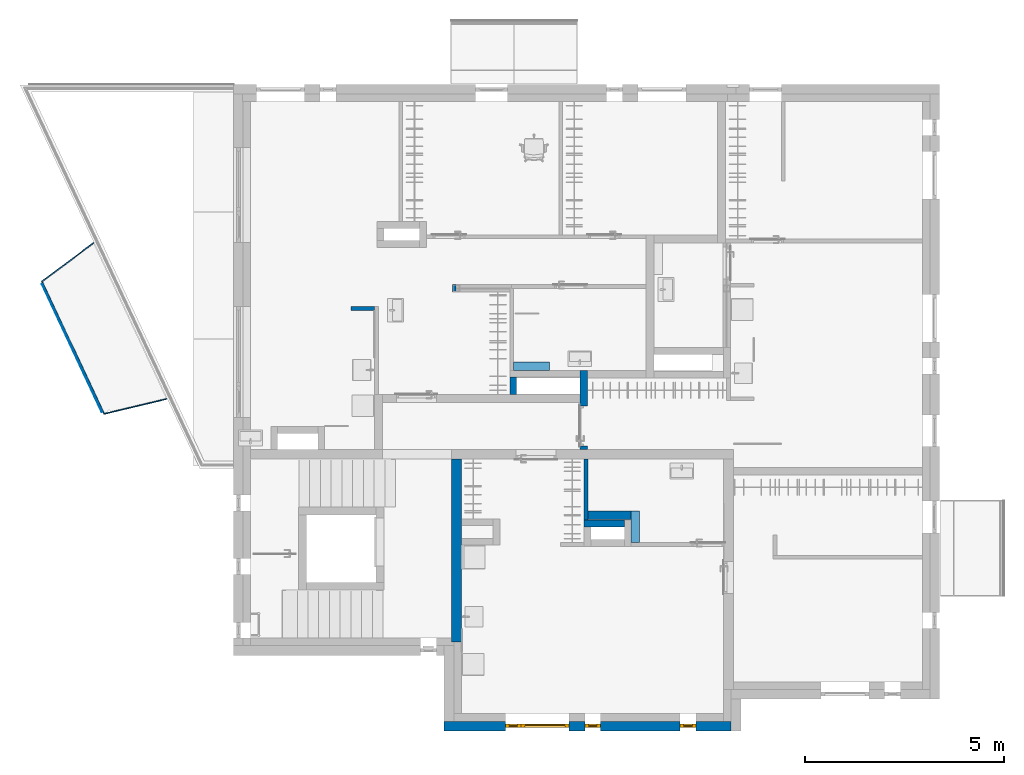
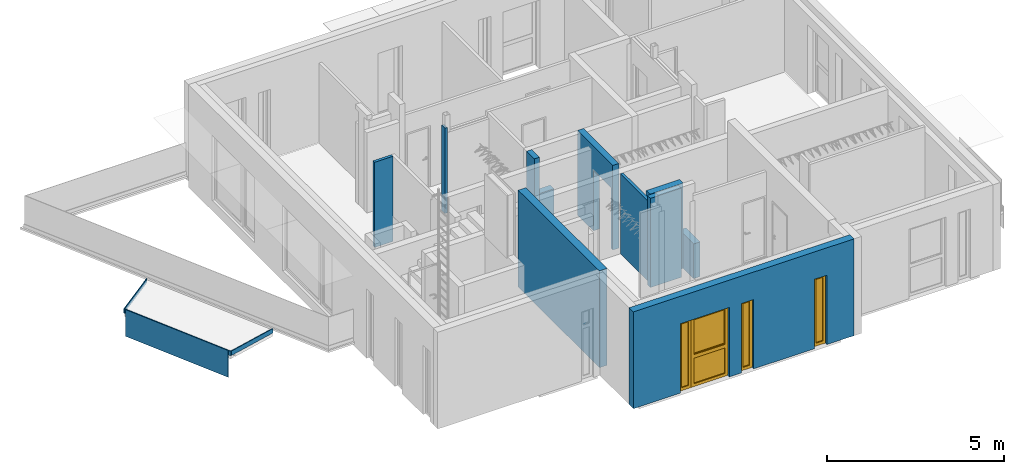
# One storey, part 3 of 42: 15 walls, 4 windows, 5 openings.
"""IFC2X3 building model written with IfcOpenShell, lengths in millimetres."""

from ifc_helpers import new_model, entity, si_unit, converted_unit, direction, frame, frame_2d, origin, place, context, subcontext, project, spatial, polyline, rectangle, outline, extrude, clip, bounded_halfspace, faceted_brep, source, transform, mapped, material, material_list, layer, layer_set, layer_usage, type_object, type_shapes, element, fill, save


model = new_model("IFC2X3")

# Units and contexts
model_context = context("Model", 3, precision=0.01, world=origin(), true_north=direction((6.123233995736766e-17, 1.0)))
plan_context = context("Plan", 3, precision=0.01, world=origin(), true_north=direction((6.123233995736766e-17, 1.0)))
body_context = subcontext(model_context, "Body", "Model", "MODEL_VIEW")
ifc_project = project(units=[si_unit("LENGTHUNIT", "METRE", prefix="MILLI"), converted_unit("PLANEANGLEUNIT", "DEGREE", entity("IfcPlaneAngleMeasure", 0.017453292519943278), si_unit("PLANEANGLEUNIT", "RADIAN"), dimensions=[0, 0, 0, 0, 0, 0, 0]), si_unit("AREAUNIT", "SQUARE_METRE")], contexts=[model_context, plan_context])

# Site, building, storey
site_placement = place(None, origin())
site = spatial("IfcSite", under=ifc_project, at=site_placement, Name="Default", CompositionType="ELEMENT")
building_placement = place(site_placement, origin())
building = spatial("IfcBuilding", under=site, at=building_placement, CompositionType="ELEMENT")
storey_placement = place(building_placement, frame((0.0, 0.0, 9465.000076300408)))
storey = spatial("IfcBuildingStorey", under=building, at=storey_placement, Name="4K", CompositionType="ELEMENT", Elevation=9465.000076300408)

# Wall, opening
ifc_material_1 = material(Name="_K. Väisviimistlus. Krohv. Valge")
ifc_layer_1 = layer(ifc_material_1, 5.0)
ifc_material_2 = material(Name="_K. Müüritis. Väikeplokk. Betoon-õõnesplokk")
ifc_layer_2 = layer(ifc_material_2, 190.00000000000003)
ifc_layer_3 = layer(ifc_material_1, 5.0)
ifc_layer_set_1 = layer_set([ifc_layer_1, ifc_layer_2, ifc_layer_3], Name="Basic Wall:SS-01. 190")
ifc_layer_usage_1 = layer_usage(ifc_layer_set_1, "AXIS2", "NEGATIVE", 100.00000000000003)
wall_type_1 = type_object("IfcWallType", Name="Basic Wall:SS-01. 190", PredefinedType="STANDARD", material=ifc_layer_set_1)
wall_1_placement = place(storey_placement, frame((8380.0, 6644.999959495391, 0.0), z_axis=(0.0, 0.0, 1.0), x_axis=(0.0, 1.0, 0.0)))
wall_1 = element("IfcWallStandardCase", 1, at=wall_1_placement, inside=storey, type_object=wall_type_1, material=ifc_layer_usage_1, Name="Basic Wall:SS-01. 190", ObjectType="Basic Wall:SS-01. 190", context=body_context, shape_type="SweptSolid", body=[
    extrude(rectangle(XDim=1995.0000405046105, YDim=200.0, at=frame_2d((997.5000202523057, -3.623767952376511e-13), x_axis=(1.0, 0.0))), origin(), (0.0, 0.0, 1.0), 2925.999923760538),
])
opening_1_placement = place(wall_1_placement, frame((-6644.999959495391, 8380.0, 0.0), z_axis=(0.0, 0.0, 1.0), x_axis=(0.0, -1.0, 0.0)))
element("IfcOpeningElement", 2, at=opening_1_placement, cuts=wall_1, Name="Basic Wall:SS-01. 190", ObjectType="Opening", context=body_context, shape_type="Brep", body=[
    faceted_brep([(9372.0, 7739.999959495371, 2100.0), (9372.0, 6739.999959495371, 2100.0), (9372.0, 6739.999959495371, 0.0), (9372.0, 7739.999959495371, 0.0), (7280.0, 7739.999959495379, 0.0), (7280.0, 7739.9999594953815, 2100.0), (7280.0, 6739.999959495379, 0.0), (7280.0, 6739.999959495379, 2100.0)], [[[0, 1, 2, 3]], [[3, 4, 5, 0]], [[2, 6, 4, 3]], [[1, 7, 6, 2]], [[5, 7, 1, 0]], [[7, 5, 4, 6]]]),
])

# Wall
ifc_layer_4 = layer(ifc_material_1, 5.0)
ifc_layer_5 = layer(ifc_material_2, 240.0)
ifc_layer_6 = layer(ifc_material_1, 5.0)
ifc_layer_set_2 = layer_set([ifc_layer_4, ifc_layer_5, ifc_layer_6], Name="Basic Wall:SS-01.240")
ifc_layer_usage_2 = layer_usage(ifc_layer_set_2, "AXIS2", "NEGATIVE", 125.00000000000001)
wall_type_2 = type_object("IfcWallType", Name="Basic Wall:SS-01.240", PredefinedType="STANDARD", material=ifc_layer_set_2)
wall_2_placement = place(storey_placement, frame((5174.995060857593, 1805.0, 0.0), z_axis=(0.0, 0.0, 1.0), x_axis=(0.0, 1.0, 0.0)))
element("IfcWallStandardCase", 3, at=wall_2_placement, inside=storey, type_object=wall_type_2, material=ifc_layer_usage_2, Name="Basic Wall:SS-01.240", ObjectType="Basic Wall:SS-01.240", context=body_context, shape_type="SweptSolid", body=[
    extrude(rectangle(XDim=4599.999959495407, YDim=249.9999999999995, at=frame_2d((2299.9999797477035, 1.4210854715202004e-13), x_axis=(-1.0, 0.0))), origin(), (0.0, 0.0, 1.0), 3345.9999999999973),
])

# Wall, openings, windows
ifc_layer_7 = layer(ifc_material_1, 10.0)
ifc_material_3 = material(Name="_K. Soojustus. EPS Silver")
ifc_layer_8 = layer(ifc_material_3, 230.0)
ifc_layer_set_3 = layer_set([ifc_layer_7, ifc_layer_8], Name="Basic Wall:VS-01")
ifc_layer_usage_3 = layer_usage(ifc_layer_set_3, "AXIS2", "NEGATIVE", 120.0)
wall_type_3 = type_object("IfcWallType", Name="Basic Wall:VS-01", PredefinedType="STANDARD", material=ifc_layer_set_3)
wall_3_placement = place(storey_placement, frame((12090.0, -310.0, 0.0), z_axis=(0.0, 0.0, 1.0), x_axis=(-1.0, 0.0, 0.0)))
wall_3 = element("IfcWallStandardCase", 4, at=wall_3_placement, inside=storey, type_object=wall_type_3, material=ifc_layer_usage_3, Name="Basic Wall:VS-01", ObjectType="Basic Wall:VS-01", context=body_context, shape_type="SweptSolid", body=[
    extrude(rectangle(XDim=7220.000000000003, YDim=239.99999999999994, at=frame_2d((3610.000000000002, 0.0), x_axis=(1.0, 0.0))), origin(), (0.0, 0.0, 1.0), 3345.9999999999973),
])
opening_2_placement = place(wall_3_placement, frame((12090.0, -310.0, 0.0), z_axis=(0.0, 0.0, 1.0), x_axis=(-1.0, 0.0, 0.0)))
opening_2 = element("IfcOpeningElement", 5, at=opening_2_placement, cuts=wall_3, Name="Basic Wall:VS-01", ObjectType="Opening", context=body_context, shape_type="Brep", body=[
    faceted_brep([(10800.0, -450.0, 2400.0), (10800.0, 244.0, 2400.0), (10800.0, 244.0, 0.0), (10800.0, -340.0, 0.0), (10800.0, -350.0, 0.0), (10800.0, -450.0, 0.0), (11200.0, -450.0, 2400.0), (11200.0, 244.0, 2400.0), (11200.0, -450.0, 0.0), (11200.0, -350.0, 0.0), (11200.0, -340.0, 0.0), (11200.0, 244.0, 0.0)], [[[0, 1, 2, 3, 4, 5]], [[6, 7, 1, 0]], [[8, 9, 10, 11, 7, 6]], [[5, 4, 3, 2, 11, 10, 9, 8]], [[6, 0, 5, 8]], [[7, 11, 2, 1]]]),
])
opening_3_placement = place(wall_3_placement, frame((12090.0, -310.0, 0.0), z_axis=(0.0, 0.0, 1.0), x_axis=(-1.0, 0.0, 0.0)))
opening_3 = element("IfcOpeningElement", 6, at=opening_3_placement, cuts=wall_3, Name="Basic Wall:VS-01", ObjectType="Opening", context=body_context, shape_type="Brep", body=[
    faceted_brep([(8405.0, -450.0, 2400.0), (8405.0, 244.0, 2400.0), (8405.0, 244.0, 0.0), (8405.0, -340.0, 0.0), (8405.0, -350.0, 0.0), (8405.0, -450.0, 0.0), (8805.0, -450.0, 2400.0), (8805.0, 244.0, 2400.0), (8805.0, -450.0, 0.0), (8805.0, -350.0, 0.0), (8805.0, -340.0, 0.0), (8805.0, 244.0, 0.0)], [[[0, 1, 2, 3, 4, 5]], [[6, 7, 1, 0]], [[8, 9, 10, 11, 7, 6]], [[5, 4, 3, 2, 11, 10, 9, 8]], [[6, 0, 5, 8]], [[7, 11, 2, 1]]]),
])
opening_4_placement = place(wall_3_placement, frame((12090.0, -310.0, 0.0), z_axis=(0.0, 0.0, 1.0), x_axis=(-1.0, 0.0, 0.0)))
opening_4 = element("IfcOpeningElement", 7, at=opening_4_placement, cuts=wall_3, Name="Basic Wall:VS-01", ObjectType="Opening", context=body_context, shape_type="Brep", body=[
    faceted_brep([(6805.0, -450.0, 2400.0), (6805.0, 244.0, 2400.0), (6805.0, 244.0, 0.0), (6805.0, -340.0, 0.0), (6805.0, -350.0, 0.0), (6805.0, -450.0, 0.0), (8005.0, -450.0, 2400.0), (8005.0, 244.0, 2400.0), (8005.0, -450.0, 0.0), (8005.0, -350.0, 0.0), (8005.0, -340.0, 0.0), (8005.0, 244.0, 0.0)], [[[0, 1, 2, 3, 4, 5]], [[6, 7, 1, 0]], [[8, 9, 10, 11, 7, 6]], [[5, 4, 3, 2, 11, 10, 9, 8]], [[6, 0, 5, 8]], [[7, 11, 2, 1]]]),
])
opening_5_placement = place(wall_3_placement, frame((12090.0, -310.0, 0.0), z_axis=(0.0, 0.0, 1.0), x_axis=(-1.0, 0.0, 0.0)))
opening_5 = element("IfcOpeningElement", 8, at=opening_5_placement, cuts=wall_3, Name="Basic Wall:VS-01", ObjectType="Opening", context=body_context, shape_type="Brep", body=[
    faceted_brep([(6405.0, -450.0, 2400.0), (6405.0, 244.0, 2400.0), (6405.0, 244.0, 0.0), (6405.0, -340.0, 0.0), (6405.0, -350.0, 0.0), (6405.0, -450.0, 0.0), (6805.0, -450.0, 2400.0), (6805.0, 244.0, 2400.0), (6805.0, -450.0, 0.0), (6805.0, -350.0, 0.0), (6805.0, -340.0, 0.0), (6805.0, 244.0, 0.0)], [[[0, 1, 2, 3, 4, 5]], [[6, 7, 1, 0]], [[8, 9, 10, 11, 7, 6]], [[5, 4, 3, 2, 11, 10, 9, 8]], [[6, 0, 5, 8]], [[7, 11, 2, 1]]]),
])
ifc_material_4 = material(Name="_K. Klaas. Pakett")
ifc_material_5 = material(Name="_K. Avatäited. Raam. PVC. RAL9005")
ifc_material_6 = material(Name="_K. Avatäited. Raam. PVC. Valge")
ifc_material_list_1 = material_list([ifc_material_4, ifc_material_5, ifc_material_6])
window_style_1 = type_object("IfcWindowStyle", Name="HR_Window_Generic_Rectangle_1x2:A-13.1200x2400.P", ConstructionType="NOTDEFINED", OperationType="NOTDEFINED", ParameterTakesPrecedence=False, Sizeable=False, material=ifc_material_list_1)
shared_shape_1 = source(origin(), body_context, "Body", "Brep", [
    faceted_brep([(78.0, -154.0, 2322.0), (1122.0, -154.0, 2322.0), (1122.0, -154.0, 1101.0), (78.0, -154.0, 1101.0), (1122.0, -179.0, 2322.0), (1122.0, -179.0, 1101.0), (78.0, -179.0, 1101.0), (78.0, -179.0, 2322.0)], [[[0, 1, 2, 3]], [[2, 1, 4, 5]], [[3, 2, 5, 6]], [[0, 3, 6, 7]], [[7, 6, 5, 4]], [[1, 0, 7, 4]]]),
    faceted_brep([(1122.0, -154.0, 2322.0), (1122.0, -154.0, 1101.0), (1122.0, -179.0, 1101.0), (1122.0, -179.0, 2322.0), (1142.0, -134.0, 2342.0), (58.0, -134.0, 2342.0), (58.0, -194.0, 2342.0), (1142.0, -194.0, 2342.0), (98.0, -154.0, 2302.0), (98.0, -134.0, 2302.0), (1102.0, -134.0, 2302.0), (1102.0, -154.0, 2302.0), (98.0, -179.0, 2302.0), (98.0, -194.0, 2302.0), (98.0, -194.0, 1121.0), (98.0, -179.0, 1121.0), (1142.0, -134.0, 1081.0), (1142.0, -194.0, 1081.0), (58.0, -194.0, 1081.0), (58.0, -134.0, 1081.0), (1102.0, -194.0, 2302.0), (1102.0, -194.0, 1121.0), (98.0, -134.0, 1121.0), (1102.0, -134.0, 1121.0), (98.0, -154.0, 1121.0), (1102.0, -154.0, 1121.0), (78.0, -154.0, 1101.0), (78.0, -179.0, 1101.0), (78.0, -154.0, 2322.0), (78.0, -179.0, 2322.0), (1102.0, -179.0, 2302.0), (1102.0, -179.0, 1121.0)], [[[0, 1, 2, 3]], [[4, 5, 6, 7]], [[8, 9, 10, 11]], [[12, 13, 14, 15]], [[16, 17, 18, 19]], [[4, 7, 17, 16]], [[13, 20, 21, 14], [7, 6, 18, 17]], [[6, 5, 19, 18]], [[5, 4, 16, 19], [10, 9, 22, 23]], [[9, 8, 24, 22]], [[25, 23, 22, 24]], [[11, 10, 23, 25]], [[1, 26, 27, 2]], [[26, 28, 29, 27]], [[28, 26, 1, 0], [8, 11, 25, 24]], [[28, 0, 3, 29]], [[20, 30, 31, 21]], [[21, 31, 15, 14]], [[29, 3, 2, 27], [30, 12, 15, 31]], [[13, 12, 30, 20]]], outer=[[True], [True], [True], [True], [True], [True], [False, True], [True], [True, False], [True], [True], [True], [True], [True], [True, False], [True], [True], [True], [True, False], [True]]),
    faceted_brep([(88.0, -194.0, 989.0), (1112.0, -194.0, 989.0), (1112.0, -194.0, 108.0), (88.0, -194.0, 108.0), (1142.0, -194.0, 1019.0), (58.0, -194.0, 1019.0), (58.0, -194.0, 78.0), (1142.0, -194.0, 78.0), (88.0, -159.0, 989.0), (88.0, -159.0, 108.0), (1112.0, -159.0, 108.0), (1142.0, -159.0, 1019.0), (1142.0, -159.0, 78.0), (58.0, -159.0, 78.0), (58.0, -159.0, 1019.0), (1112.0, -159.0, 989.0)], [[[0, 1, 2, 3], [4, 5, 6, 7]], [[8, 0, 3, 9]], [[9, 3, 2, 10]], [[11, 12, 13, 14], [15, 8, 9, 10]], [[1, 15, 10, 2]], [[6, 5, 14, 13]], [[7, 6, 13, 12]], [[4, 7, 12, 11]], [[15, 1, 0, 8]], [[5, 4, 11, 14]]], outer=[[False, True], [True], [True], [True, False], [True], [True], [True], [True], [True], [True]]),
    faceted_brep([(1142.0, -159.0, 1019.0), (58.0, -159.0, 1019.0), (58.0, -159.0, 78.0), (1142.0, -159.0, 78.0), (58.0, -134.0, 1019.0), (58.0, -134.0, 78.0), (1142.0, -134.0, 78.0), (1142.0, -134.0, 1019.0)], [[[0, 1, 2, 3]], [[2, 1, 4, 5]], [[3, 2, 5, 6]], [[0, 3, 6, 7]], [[7, 6, 5, 4]], [[1, 0, 7, 4]]]),
    faceted_brep([(58.0, -134.0, 2342.0), (58.0, -134.0, 1081.0), (1142.0, -134.0, 1081.0), (1142.0, -134.0, 2342.0), (88.0, -134.0, 2312.0), (1112.0, -134.0, 2312.0), (1112.0, -134.0, 1111.0), (88.0, -134.0, 1111.0), (1142.0, -134.0, 1019.0), (1142.0, -134.0, 78.0), (1142.0, -194.0, 78.0), (1142.0, -194.0, 1019.0), (58.0, -134.0, 78.0), (58.0, -134.0, 1019.0), (58.0, -194.0, 1019.0), (58.0, -194.0, 78.0), (1112.0, -100.0, 108.0), (88.0, -100.0, 108.0), (88.0, -134.0, 108.0), (1112.0, -134.0, 108.0), (88.0, -100.0, 989.0), (88.0, -134.0, 989.0), (1112.0, -100.0, 989.0), (1112.0, -134.0, 989.0), (1200.0, -194.0, 2400.0), (0.0, -194.0, 2400.0), (0.0, -194.0, 30.0), (1200.0, -194.0, 30.0), (58.0, -194.0, 2342.0), (1142.0, -194.0, 2342.0), (1142.0, -194.0, 1081.0), (58.0, -194.0, 1081.0), (0.0, -100.0, 2400.0), (0.0, -100.0, 30.0), (0.0, -110.0, 30.0), (0.0, -110.0, 0.0), (0.0, -184.0, 0.0), (0.0, -184.0, 30.0), (1200.0, -184.0, 30.0), (1200.0, -100.0, 2400.0), (1200.0, -184.0, 0.0), (1200.0, -110.0, 0.0), (1200.0, -110.0, 30.0), (1200.0, -100.0, 30.0), (88.0, -100.0, 2312.0), (88.0, -100.0, 1111.0), (1112.0, -100.0, 1111.0), (1112.0, -100.0, 2312.0)], [[[0, 1, 2, 3], [4, 5, 6, 7]], [[8, 9, 10, 11]], [[12, 13, 14, 15]], [[9, 12, 15, 10]], [[16, 17, 18, 19]], [[17, 20, 21, 18]], [[22, 16, 19, 23]], [[11, 10, 15, 14], [24, 25, 26, 27], [28, 29, 30, 31]], [[25, 32, 33, 34, 35, 36, 37, 26]], [[37, 38, 27, 26]], [[39, 24, 27, 38, 40, 41, 42, 43]], [[17, 16, 22, 20], [32, 39, 43, 33], [44, 45, 46, 47]], [[42, 34, 33, 43]], [[34, 42, 41, 35]], [[35, 41, 40, 36]], [[38, 37, 36, 40]], [[25, 24, 39, 32]], [[44, 47, 5, 4]], [[47, 46, 6, 5]], [[45, 44, 4, 7]], [[0, 3, 29, 28]], [[3, 2, 30, 29]], [[13, 8, 11, 14]], [[1, 0, 28, 31]], [[2, 1, 31, 30]], [[46, 45, 7, 6]], [[20, 22, 23, 21]], [[9, 8, 13, 12], [19, 18, 21, 23]]], outer=[[True, False], [True], [True], [True], [True], [True], [True], [False, True, False], [True], [True], [True], [False, True, False], [True], [True], [True], [True], [True], [True], [True], [True], [True], [True], [True], [True], [True], [True], [True], [True, False]]),
])
type_shapes(window_style_1, [shared_shape_1])
window_1_placement = place(opening_4_placement, frame((8005.0, -450.0, 0.0), z_axis=(0.0, 0.0, 1.0), x_axis=(-1.0, 0.0, 0.0)))
window_1 = element("IfcWindow", 9, at=window_1_placement, inside=storey, type_object=window_style_1, material=ifc_material_list_1, Name="HR_Window_Generic_Rectangle_1x2:A-13.1200x2400.P", ObjectType="HR_Window_Generic_Rectangle_1x2:A-13.1200x2400.P", OverallHeight=2465.0000000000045, OverallWidth=1200.0000000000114, context=body_context, shape_type="MappedRepresentation", body=[
    mapped(shared_shape_1, transform((0.0, 0.0, 0.0), scale=1.0)),
])
fill(opening_4, window_1)
ifc_material_list_2 = material_list([ifc_material_6, ifc_material_4, ifc_material_5])
window_style_2 = type_object("IfcWindowStyle", Name="HR_Window_Generic_Rectangle_1x1:A-01.400x2400.ma", ConstructionType="NOTDEFINED", OperationType="NOTDEFINED", ParameterTakesPrecedence=False, Sizeable=False, material=ifc_material_list_2)
shared_shape_2 = source(origin(), body_context, "Body", "Brep", [
    faceted_brep([(88.0, -194.0, 2312.0), (312.0, -194.0, 2312.0), (312.0, -194.0, 108.0), (88.0, -194.0, 108.0), (342.0, -194.0, 2342.0), (58.0, -194.0, 2342.0), (58.0, -194.0, 78.0), (342.0, -194.0, 78.0), (88.0, -159.0, 2312.0), (88.0, -159.0, 108.0), (312.0, -159.0, 108.0), (342.0, -159.0, 2342.0), (342.0, -159.0, 78.0), (58.0, -159.0, 78.0), (58.0, -159.0, 2342.0), (312.0, -159.0, 2312.0)], [[[0, 1, 2, 3], [4, 5, 6, 7]], [[8, 0, 3, 9]], [[9, 3, 2, 10]], [[11, 12, 13, 14], [15, 8, 9, 10]], [[1, 15, 10, 2]], [[6, 5, 14, 13]], [[7, 6, 13, 12]], [[4, 7, 12, 11]], [[15, 1, 0, 8]], [[5, 4, 11, 14]]], outer=[[False, True], [True], [True], [True, False], [True], [True], [True], [True], [True], [True]]),
    faceted_brep([(342.0, -159.0, 2342.0), (58.0, -159.0, 2342.0), (58.0, -159.0, 78.0), (342.0, -159.0, 78.0), (58.0, -134.0, 2342.0), (58.0, -134.0, 78.0), (342.0, -134.0, 78.0), (342.0, -134.0, 2342.0)], [[[0, 1, 2, 3]], [[2, 1, 4, 5]], [[3, 2, 5, 6]], [[0, 3, 6, 7]], [[7, 6, 5, 4]], [[1, 0, 7, 4]]]),
    faceted_brep([(342.0, -134.0, 78.0), (58.0, -134.0, 78.0), (58.0, -194.0, 78.0), (342.0, -194.0, 78.0), (58.0, -134.0, 2342.0), (58.0, -194.0, 2342.0), (342.0, -134.0, 2342.0), (342.0, -194.0, 2342.0), (88.0, -100.0, 108.0), (88.0, -100.0, 2312.0), (88.0, -134.0, 2312.0), (88.0, -134.0, 108.0), (312.0, -100.0, 108.0), (312.0, -134.0, 108.0), (312.0, -100.0, 2312.0), (312.0, -134.0, 2312.0), (0.0, -100.0, 2400.0), (400.0, -100.0, 2400.0), (400.0, -100.0, 30.0), (0.0, -100.0, 30.0), (400.0, -194.0, 2400.0), (0.0, -194.0, 2400.0), (0.0, -194.0, 30.0), (400.0, -194.0, 30.0), (0.0, -110.0, 30.0), (0.0, -110.0, 0.0), (0.0, -184.0, 0.0), (0.0, -184.0, 30.0), (400.0, -184.0, 30.0), (400.0, -184.0, 0.0), (400.0, -110.0, 0.0), (400.0, -110.0, 30.0)], [[[0, 1, 2, 3]], [[1, 4, 5, 2]], [[6, 0, 3, 7]], [[8, 9, 10, 11]], [[12, 8, 11, 13]], [[14, 12, 13, 15]], [[16, 17, 18, 19], [9, 8, 12, 14]], [[20, 21, 22, 23], [7, 3, 2, 5]], [[21, 16, 19, 24, 25, 26, 27, 22]], [[27, 28, 23, 22]], [[17, 20, 23, 28, 29, 30, 31, 18]], [[31, 24, 19, 18]], [[24, 31, 30, 25]], [[25, 30, 29, 26]], [[28, 27, 26, 29]], [[4, 6, 7, 5]], [[9, 14, 15, 10]], [[21, 20, 17, 16]], [[10, 15, 13, 11], [0, 6, 4, 1]]], outer=[[True], [True], [True], [True], [True], [True], [True, False], [True, False], [True], [True], [True], [True], [True], [True], [True], [True], [True], [True], [False, True]]),
])
type_shapes(window_style_2, [shared_shape_2])
window_2_placement = place(opening_2_placement, frame((11200.0, -450.0, 0.0), z_axis=(0.0, 0.0, 1.0), x_axis=(-1.0, 0.0, 0.0)))
window_2 = element("IfcWindow", 10, at=window_2_placement, inside=storey, type_object=window_style_2, material=ifc_material_list_2, Name="HR_Window_Generic_Rectangle_1x1:A-01.400x2400.ma", ObjectType="HR_Window_Generic_Rectangle_1x1:A-01.400x2400.ma", OverallHeight=2465.0000000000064, OverallWidth=400.0000000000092, context=body_context, shape_type="MappedRepresentation", body=[
    mapped(shared_shape_2, transform((0.0, 0.0, 0.0), scale=1.0)),
])
fill(opening_2, window_2)
window_3_placement = place(opening_3_placement, frame((8805.0, -450.0, 0.0), z_axis=(0.0, 0.0, 1.0), x_axis=(-1.0, 0.0, 0.0)))
window_3 = element("IfcWindow", 11, at=window_3_placement, inside=storey, type_object=window_style_2, material=ifc_material_list_2, Name="HR_Window_Generic_Rectangle_1x1:A-01.400x2400.ma", ObjectType="HR_Window_Generic_Rectangle_1x1:A-01.400x2400.ma", OverallHeight=2465.0000000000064, OverallWidth=400.0000000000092, context=body_context, shape_type="MappedRepresentation", body=[
    mapped(shared_shape_2, transform((0.0, 0.0, 0.0), scale=1.0)),
])
fill(opening_3, window_3)
window_4_placement = place(opening_5_placement, frame((6805.0, -450.0, 0.0), z_axis=(0.0, 0.0, 1.0), x_axis=(-1.0, 0.0, 0.0)))
window_4 = element("IfcWindow", 12, at=window_4_placement, inside=storey, type_object=window_style_2, material=ifc_material_list_2, Name="HR_Window_Generic_Rectangle_1x1:A-01.400x2400.ma", ObjectType="HR_Window_Generic_Rectangle_1x1:A-01.400x2400.ma", OverallHeight=2465.0000000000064, OverallWidth=400.0000000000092, context=body_context, shape_type="MappedRepresentation", body=[
    mapped(shared_shape_2, transform((0.0, 0.0, 0.0), scale=1.0)),
])
fill(opening_5, window_4)

# Walls
ifc_material_7 = material(Name="_K. Ehitusplaat. Kipsplaat. Erikõva")
ifc_layer_9 = layer(ifc_material_7, 13.000000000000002)
ifc_material_8 = material(Name="_K. Soojustus. Mineraalvill")
ifc_layer_10 = layer(ifc_material_8, 66.0)
ifc_layer_11 = layer(ifc_material_7, 13.000000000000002)
ifc_layer_set_4 = layer_set([ifc_layer_9, ifc_layer_10, ifc_layer_11], Name="Basic Wall:SS-401")
ifc_layer_usage_4 = layer_usage(ifc_layer_set_4, "AXIS2", "NEGATIVE", 46.00000000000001)
wall_type_4 = type_object("IfcWallType", Name="Basic Wall:SS-401", PredefinedType="STANDARD", material=ifc_layer_set_4)
wall_4_placement = place(storey_placement, frame((2520.0, 10194.499959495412, -20.0)))
element("IfcWallStandardCase", 13, at=wall_4_placement, inside=storey, type_object=wall_type_4, material=ifc_layer_usage_4, Name="Basic Wall:SS-401", ObjectType="Basic Wall:SS-401", context=body_context, shape_type="SweptSolid", body=[
    extrude(rectangle(XDim=600.0, YDim=92.00000000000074, at=frame_2d((300.0, 1.2434497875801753e-13), x_axis=(-1.0, 0.0))), origin(), (0.0, 0.0, 1.0), 2945.9999999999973),
])
ifc_layer_usage_5 = layer_usage(ifc_layer_set_4, "AXIS2", "NEGATIVE", 46.00000000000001)
wall_5_placement = place(storey_placement, frame((8436.0, 4870.0, -20.0), z_axis=(0.0, 0.0, 1.0), x_axis=(0.0, 1.0, 0.0)))
element("IfcWallStandardCase", 14, at=wall_5_placement, inside=storey, type_object=wall_type_4, material=ifc_layer_usage_5, Name="Basic Wall:SS-401", ObjectType="Basic Wall:SS-401", context=body_context, shape_type="SweptSolid", body=[
    extrude(rectangle(XDim=1534.9999594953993, YDim=92.00000000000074, at=frame_2d((767.4999797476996, 1.9895196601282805e-13), x_axis=(-1.0, 0.0))), origin(), (0.0, 0.0, 1.0), 2769.999923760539),
])
ifc_layer_12 = layer(ifc_material_7, 13.000000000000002)
ifc_layer_13 = layer(ifc_material_8, 66.0)
ifc_layer_set_5 = layer_set([ifc_layer_12, ifc_layer_13], Name="Basic Wall:SS-402")
ifc_layer_usage_6 = layer_usage(ifc_layer_set_5, "AXIS2", "NEGATIVE", 39.50000000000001)
wall_type_5 = type_object("IfcWallType", Name="Basic Wall:SS-402", PredefinedType="STANDARD", material=ifc_layer_set_5)
wall_6_placement = place(storey_placement, frame((5121.499999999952, 10607.0, -20.0), z_axis=(0.0, 0.0, 1.0), x_axis=(0.0, 1.0, 0.0)))
element("IfcWallStandardCase", 15, at=wall_6_placement, inside=storey, type_object=wall_type_5, material=ifc_layer_usage_6, Name="Basic Wall:SS-402", ObjectType="Basic Wall:SS-402", context=body_context, shape_type="SweptSolid", body=[
    extrude(rectangle(XDim=186.00000000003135, YDim=78.99999999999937, at=frame_2d((93.00000000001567, 1.4921397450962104e-13), x_axis=(-1.0, 0.0))), origin(), (0.0, 0.0, 1.0), 2945.9999999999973),
])
ifc_layer_14 = layer(ifc_material_1, 10.0)
ifc_material_9 = material(Name="_K. Müüritis. Väikeplokk. Kergkruusplokk")
ifc_layer_15 = layer(ifc_material_9, 150.0)
ifc_layer_16 = layer(ifc_material_1, 10.0)
ifc_layer_set_6 = layer_set([ifc_layer_14, ifc_layer_15, ifc_layer_16], Name="Basic Wall:SS-03. Šahti sein")
ifc_layer_usage_7 = layer_usage(ifc_layer_set_6, "AXIS2", "POSITIVE", -85.00000000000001)
wall_type_6 = type_object("IfcWallType", Name="Basic Wall:SS-03. Šahti sein", PredefinedType="STANDARD", material=ifc_layer_set_6)
wall_7_placement = place(storey_placement, frame((6605.0, 8470.0, 0.0), z_axis=(0.0, 0.0, 1.0), x_axis=(0.0, -1.0, 0.0)))
element("IfcWallStandardCase", 16, at=wall_7_placement, inside=storey, type_object=wall_type_6, material=ifc_layer_usage_7, Name="Basic Wall:SS-03. Šahti sein", ObjectType="Basic Wall:SS-03. Šahti sein", context=body_context, shape_type="SweptSolid", body=[
    extrude(rectangle(XDim=435.0000405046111, YDim=170.00000000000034, at=frame_2d((217.50002025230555, 3.907985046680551e-13), x_axis=(-1.0, 0.0))), origin(), (0.0, 0.0, 1.0), 2925.999923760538),
])
ifc_layer_usage_8 = layer_usage(ifc_layer_set_6, "AXIS2", "NEGATIVE", 85.00000000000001)
wall_8_placement = place(storey_placement, frame((8390.0, 4785.0, -155.0)))
element("IfcWallStandardCase", 17, at=wall_8_placement, inside=storey, type_object=wall_type_6, material=ifc_layer_usage_8, Name="Basic Wall:SS-03. Šahti sein", ObjectType="Basic Wall:SS-03. Šahti sein", context=body_context, shape_type="SweptSolid", body=[
    extrude(rectangle(XDim=1009.9999999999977, YDim=170.00000000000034, at=frame_2d((504.99999999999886, 0.0), x_axis=(-1.0, 0.0))), origin(), (0.0, 0.0, 1.0), 3080.9999237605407),
])
ifc_material_10 = material(Name="_K. Välisviimistlus. Alumiinium-komposiitplaat")
ifc_layer_17 = layer(ifc_material_10, 4.0)
ifc_material_11 = material(Name="_K. Õhk. Roov. Fassaadikatte alusroov. Horisontaalne. 25 mm")
ifc_layer_18 = layer(ifc_material_11, 16.0)
ifc_layer_set_7 = layer_set([ifc_layer_17, ifc_layer_18], Name="Basic Wall:VS-komposiit")
ifc_layer_usage_9 = layer_usage(ifc_layer_set_7, "AXIS2", "NEGATIVE", 10.000000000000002)
wall_type_7 = type_object("IfcWallType", Name="Basic Wall:VS-komposiit", PredefinedType="STANDARD")
wall_9_placement = place(storey_placement, frame((-3737.7133640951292, 7592.904474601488, -762.5000763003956), z_axis=(0.0, 0.0, 1.0), x_axis=(-0.42443169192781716, 0.9054599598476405, 0.0)))
element("IfcWallStandardCase", 18, at=wall_9_placement, inside=storey, type_object=wall_type_7, material=ifc_layer_usage_9, Name="Basic Wall:VS-komposiit", ObjectType="Basic Wall:VS-komposiit", context=body_context, shape_type="SweptSolid", body=[
    extrude(rectangle(XDim=3545.900100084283, YDim=20.000000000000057, at=frame_2d((1772.9500500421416, -5.3290705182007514e-14), x_axis=(-1.0, 0.0))), origin(), (0.0, 0.0, 1.0), 925.0000763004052),
])
ifc_material_12 = material(Name="_K. Katusekate. Rullmaterjal. SBS")
ifc_layer_19 = layer(ifc_material_12, 10.0)
ifc_material_13 = material(Name="_K. Ehitusplaat. Vineer. Veekindel")
ifc_layer_20 = layer(ifc_material_13, 15.0)
ifc_layer_set_8 = layer_set([ifc_layer_19, ifc_layer_20], Name="Basic Wall:VS-Rõdu parapet")
ifc_layer_usage_10 = layer_usage(ifc_layer_set_8, "AXIS2", "NEGATIVE", 12.5)
wall_type_8 = type_object("IfcWallType", Name="Basic Wall:VS-Rõdu parapet", PredefinedType="STANDARD", material=ifc_layer_set_8)
wall_10_placement = place(storey_placement, frame((-3948.4373061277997, 11846.417884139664, 0.0), z_axis=(0.0, 0.0, 1.0), x_axis=(-0.801069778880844, -0.5985709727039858, 0.0)))
element("IfcWallStandardCase", 19, at=wall_10_placement, inside=storey, type_object=wall_type_8, material=ifc_layer_usage_10, Name="Basic Wall:VS-Rõdu parapet", ObjectType="Basic Wall:VS-Rõdu parapet", context=body_context, shape_type="Clipping", body=[
    clip(clip(clip(clip(extrude(outline(polyline([(0.0, -12.499999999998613), (1635.7127134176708, -12.499999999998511), (1640.868419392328, 12.500000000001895), (1615.3423287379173, 12.500000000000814), (5.155769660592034, 12.500000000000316), (0.0, -12.499999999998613)])), origin(), (0.0, 0.0, 1.0), 154.9999999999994), bounded_halfspace(frame((9.195834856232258, 12.500000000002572, 104.91652420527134), z_axis=(0.0, 0.008347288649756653, 0.9999651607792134), x_axis=(1.0, 0.0, 0.0)), True, frame((9.195834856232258, 12.500000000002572, 104.91652420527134)), polyline([(0.0, 0.0), (-6.102373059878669, -10.0), (1614.294582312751, -10.0), (1615.8881693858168, 0.0), (0.0, 0.0)]))), bounded_halfspace(frame((1625.2534591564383, 12.500000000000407, 104.91624164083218), z_axis=(-0.2690859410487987, 0.05549448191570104, 0.9615160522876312), x_axis=(0.2019826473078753, 0.9793891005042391, 0.0)), True, frame((1625.2534591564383, 12.500000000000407, 104.91624164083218)), polyline([(0.0, 0.0), (-1.7630419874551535, -10.0), (0.29929102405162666, 0.0), (0.0, 0.0)]))), bounded_halfspace(frame((1625.0840042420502, 12.500000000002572, 104.91652420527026), z_axis=(0.0016674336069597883, 0.008081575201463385, 0.9999659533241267), x_axis=(0.17362051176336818, 0.9847780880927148, -0.008248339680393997)), True, frame((1625.0840042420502, 12.500000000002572, 104.91652420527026)), polyline([(0.0, 0.0), (-1.5935870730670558, -10.0), (0.16945491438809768, 0.0), (0.0, 0.0)]))), bounded_halfspace(frame((3.0934617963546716, 2.5000000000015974, 105.0), z_axis=(0.020657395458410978, -0.004260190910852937, 0.9997775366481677), x_axis=(0.5208936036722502, 0.8535918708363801, -0.007125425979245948)), True, frame((3.0934617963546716, 2.5000000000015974, 105.0)), polyline([(0.0, 0.0), (6.1023730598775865, 10.0), (2.062307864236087, 10.0), (0.0, 0.0)]))),
])
ifc_layer_usage_11 = layer_usage(ifc_layer_set_8, "AXIS2", "NEGATIVE", 12.5)
wall_11_placement = place(storey_placement, frame((-5246.275314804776, 10864.202031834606, 0.0), z_axis=(0.0, 0.0, 1.0), x_axis=(0.42443608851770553, -0.9054578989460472, 0.0)))
element("IfcWallStandardCase", 20, at=wall_11_placement, inside=storey, type_object=wall_type_8, material=ifc_layer_usage_11, Name="Basic Wall:VS-Rõdu parapet", ObjectType="Basic Wall:VS-Rõdu parapet", context=body_context, shape_type="SweptSolid", body=[
    extrude(outline(polyline([(3679.100119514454, -12.500000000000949), (3684.255952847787, 12.499999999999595), (3658.7298364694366, 12.499999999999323), (0.0, 12.500000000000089), (2.062279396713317, 2.500014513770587), (5.15570597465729, -12.500000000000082), (3679.100119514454, -12.500000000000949)])), origin(), (0.0, 0.0, 1.0), 154.9999999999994),
])
ifc_layer_usage_12 = layer_usage(ifc_layer_set_8, "AXIS2", "NEGATIVE", 12.5)
wall_12_placement = place(storey_placement, frame((-3679.1500945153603, 7544.5250982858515, 0.0), z_axis=(0.0, 0.0, 1.0), x_axis=(0.9725243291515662, 0.23280126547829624, 0.0)))
element("IfcWallStandardCase", 21, at=wall_12_placement, inside=storey, type_object=wall_type_8, material=ifc_layer_usage_12, Name="Basic Wall:VS-Rõdu parapet", ObjectType="Basic Wall:VS-Rõdu parapet", context=body_context, shape_type="SweptSolid", body=[
    extrude(outline(polyline([(1615.3332002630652, -12.50000000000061), (1610.17743061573, 12.499999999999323), (0.0, 12.500000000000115), (5.155833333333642, -12.500000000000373), (1615.3332002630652, -12.50000000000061)])), origin(), (0.0, 0.0, 1.0), 154.9999999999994),
])
ifc_layer_21 = layer(ifc_material_7, 13.000000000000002)
ifc_material_14 = material(Name="_K. Õhk. Roov. Fassaadikatte alusroov. Vertikaalne. 25 mm")
ifc_layer_22 = layer(ifc_material_14, 200.0)
ifc_layer_set_9 = layer_set([ifc_layer_21, ifc_layer_22], Name="Basic Wall:SS-403")
ifc_layer_usage_13 = layer_usage(ifc_layer_set_9, "AXIS2", "POSITIVE", -106.5)
wall_type_9 = type_object("IfcWallType", Name="Basic Wall:SS-403", PredefinedType="STANDARD", material=ifc_layer_set_9)
wall_13_placement = place(storey_placement, frame((7512.0, 8746.500000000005, -20.0), z_axis=(0.0, 0.0, 1.0), x_axis=(-1.0, 0.0, 0.0)))
element("IfcWallStandardCase", 22, at=wall_13_placement, inside=storey, type_object=wall_type_9, material=ifc_layer_usage_13, Name="Basic Wall:SS-403", ObjectType="Basic Wall:SS-403", context=body_context, shape_type="SweptSolid", body=[
    extrude(rectangle(XDim=900.0, YDim=212.9999999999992, at=frame_2d((450.0, -1.6342482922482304e-13), x_axis=(-1.0, 0.0))), origin(), (0.0, 0.0, 1.0), 1200.0),
])
ifc_layer_usage_14 = layer_usage(ifc_layer_set_9, "AXIS2", "POSITIVE", -106.5)
wall_14_placement = place(storey_placement, frame((9676.499999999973, 4302.0, -20.0), z_axis=(0.0, 0.0, 1.0), x_axis=(0.0, 1.0, 0.0)))
element("IfcWallStandardCase", 23, at=wall_14_placement, inside=storey, type_object=wall_type_9, material=ifc_layer_usage_14, Name="Basic Wall:SS-403", ObjectType="Basic Wall:SS-403", context=body_context, shape_type="SweptSolid", body=[
    extrude(rectangle(XDim=800.0000000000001, YDim=212.99999999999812, at=frame_2d((400.00000000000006, 6.039613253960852e-13), x_axis=(-1.0, 0.0))), origin(), (0.0, 0.0, 1.0), 1200.0),
])
ifc_layer_usage_15 = layer_usage(ifc_layer_set_9, "AXIS2", "POSITIVE", -106.5)
wall_15_placement = place(storey_placement, frame((9570.0, 4995.499999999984, -20.0), z_axis=(0.0, 0.0, 1.0), x_axis=(-1.0, 0.0, 0.0)))
element("IfcWallStandardCase", 24, at=wall_15_placement, inside=storey, type_object=wall_type_9, material=ifc_layer_usage_15, Name="Basic Wall:SS-403", ObjectType="Basic Wall:SS-403", context=body_context, shape_type="SweptSolid", body=[
    extrude(rectangle(XDim=1087.9999999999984, YDim=212.99999999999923, at=frame_2d((543.9999999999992, 1.2789769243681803e-13), x_axis=(-1.0, 0.0))), origin(), (0.0, 0.0, 1.0), 2945.9999999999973),
])

save(model, "model.ifc")
